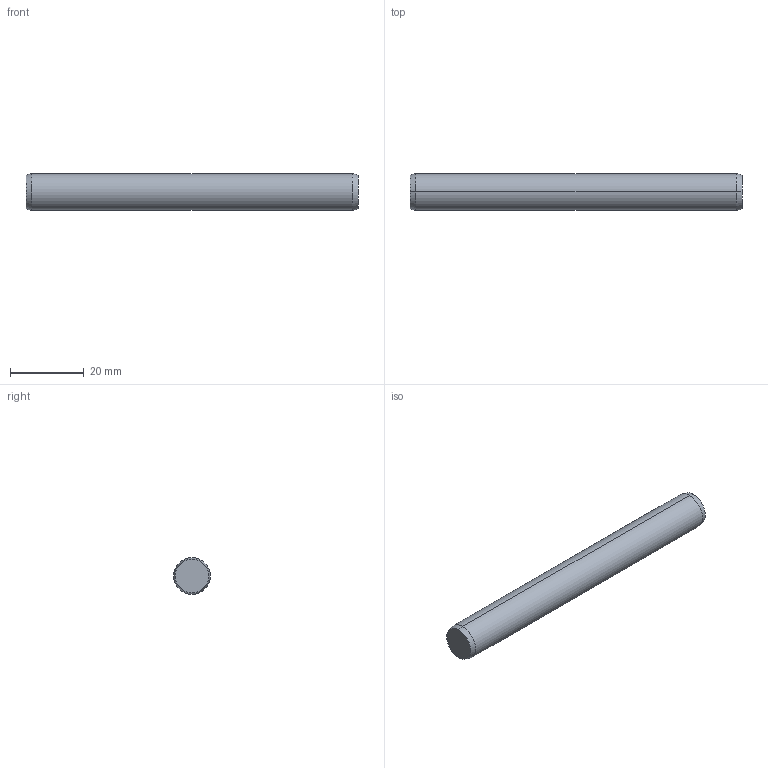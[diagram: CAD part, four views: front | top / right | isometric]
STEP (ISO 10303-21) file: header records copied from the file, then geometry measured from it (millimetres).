
FILE_DESCRIPTION (( 'STEP AP203' ), '1' );
FILE_NAME ('P1206.100-090.step', '2017-06-14T08:34:55', ( 'User' ), ( '' ), 'SwSTEP 2.0', 'SolidWorks 2009', '' );
FILE_SCHEMA (( 'CONFIG_CONTROL_DESIGN' ));
Length unit declared in the file: millimetre
Products named in the file (1): P1206.100-090
Bounding box: 90 x 10 x 10 mm (x, y, z)
Volume: 7050.2 mm3; surface area: 2959.7 mm2
Topology: 1 solids, 1 shells, 8 faces, 14 edges, 8 vertices
Faces by surface type: cone 4, cylinder 2, plane 2
Entity records: 271 total; most frequent: DIRECTION 40, CARTESIAN_POINT 31, ORIENTED_EDGE 28, AXIS2_PLACEMENT_3D 17, EDGE_CURVE 14, EDGE_LOOP 8, VERTEX_POINT 8, ADVANCED_FACE 8
